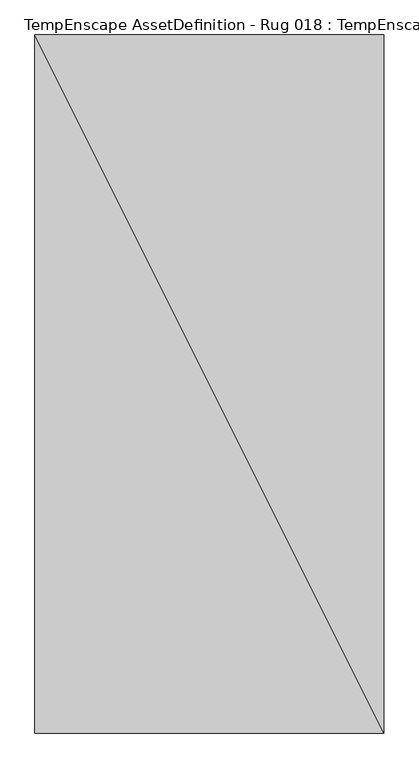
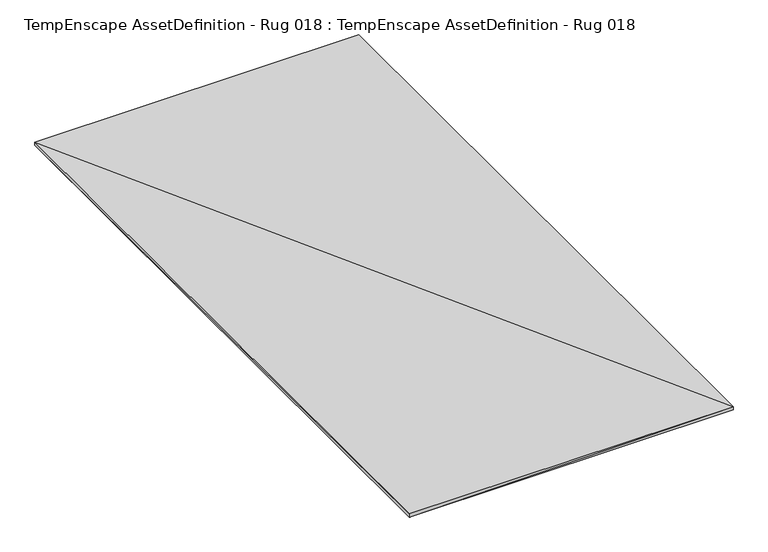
"""IFC4 building model written with IfcOpenShell, lengths in millimetres: geographic element geometry, TempEnscape AssetDefinition - Rug 018 : TempEnscape AssetDefinition - Rug 018."""

from ifc_helpers import new_model, si_unit, origin, place, context, project, spatial, faceted_brep, source, transform, mapped, element, save


def tempenscape_assetdefinition_rug_018_tempenscape_b562c5ca(model_context):
    return source(origin(), model_context, "Body", "Brep", [
        faceted_brep([(-1003.9640556, -2026.4163068, 0.0), (-1003.9634245, 1944.1810007, 0.0), (981.3345982, -2026.4167802, 0.0), (981.3352293, 1944.1806852, 19.9999975), (-1003.9634245, 1944.1810007, 20.0), (981.3345982, -2026.4167802, 19.9999975), (-1003.9640556, -2026.4163068, 20.0), (981.3352293, 1944.1806852, 0.0)], [[[0, 1, 2]], [[3, 4, 5]], [[4, 1, 6]], [[6, 0, 5]], [[5, 2, 3]], [[3, 7, 4]], [[2, 1, 7]], [[5, 4, 6]], [[6, 1, 0]], [[5, 0, 2]], [[3, 2, 7]], [[4, 7, 1]]]),
    ])


if __name__ == "__main__":
    model = new_model("IFC4")
    model_context = context("Model", 3, world=origin())
    ifc_project = project(units=[si_unit("LENGTHUNIT", "METRE", prefix="MILLI")], contexts=[model_context])
    site = spatial("IfcSite", under=ifc_project)
    building = spatial("IfcBuilding", under=site)
    placement = place(None, origin())
    tempenscape_assetdefinition_rug_018_tempenscape_shape = tempenscape_assetdefinition_rug_018_tempenscape_b562c5ca(model_context)
    element("IfcGeographicElement", 1, ObjectType="TempEnscape AssetDefinition - Rug 018 : TempEnscape AssetDefinition - Rug 018", at=placement, inside=building, context=model_context, shape_type="MappedRepresentation", body=[
        mapped(tempenscape_assetdefinition_rug_018_tempenscape_shape, transform((0.0, 0.0, 0.0), x_axis=(1.0, 0.0, 0.0), y_axis=(0.0, 1.0, 0.0), z_axis=(0.0, 0.0, 1.0))),
    ])
    save(model, "model.ifc")
